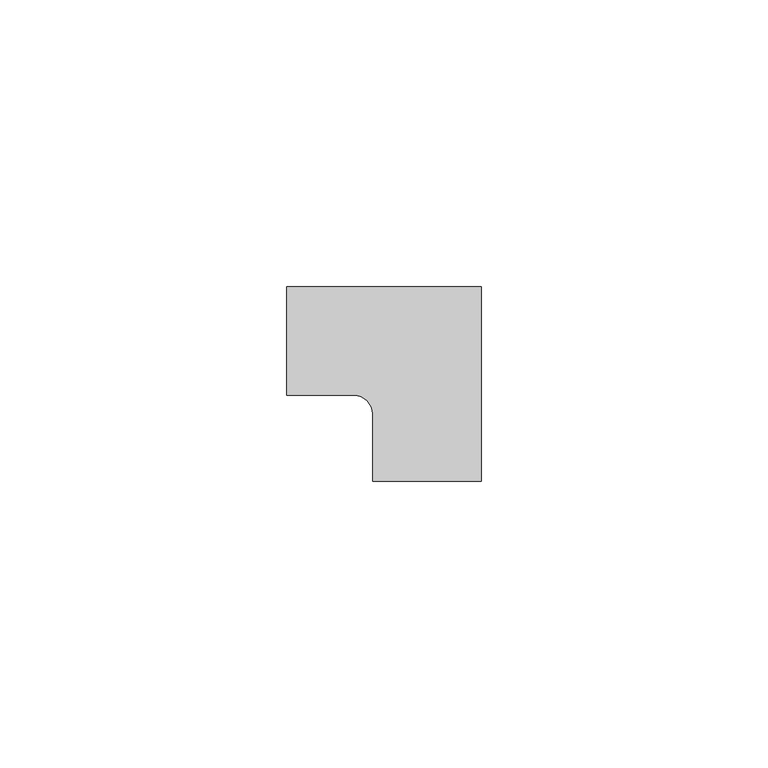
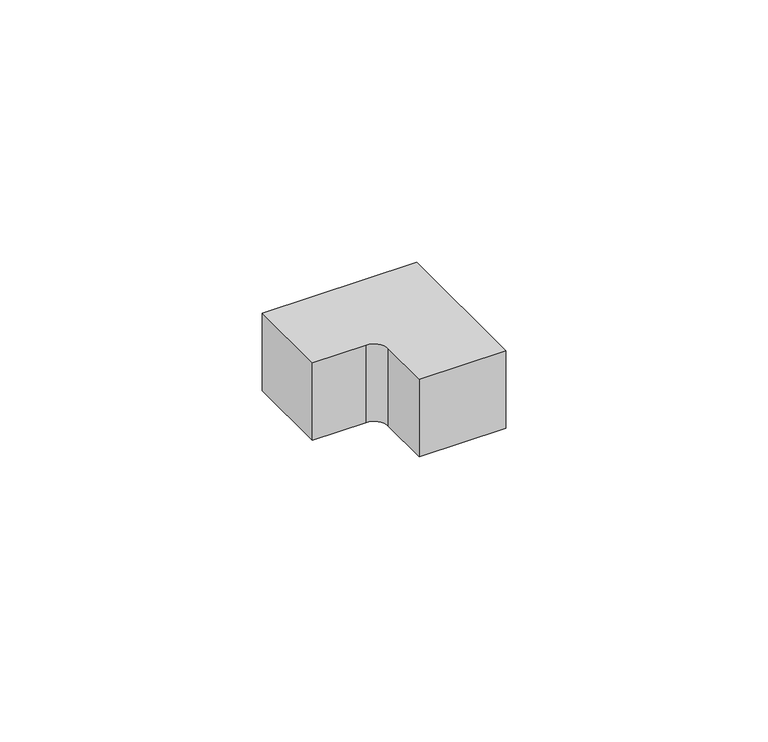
"""IFC4 building model written with IfcOpenShell, lengths in millimetres: proxy geometry, Внутренний_угол_КМВ : Внутренний угол КМВ 16х16."""

from ifc_helpers import new_model, si_unit, point, frame_2d, origin, origin_with_axes, place, context, project, spatial, polyline, circle_curve, trimmed, segment, composite_curve, outline, extrude, source, transform, mapped, element, save


def generic_models_bbe6288f(model_context):
    return source(origin(), model_context, "Body", "SweptSolid", [
        extrude(outline(composite_curve([segment(polyline([(-15.0, 0.0), (-15.0, 19.0), (19.0114701, 19.0), (19.0114701, -15.0), (0.0, -15.0), (0.0, -3.184906)]), True, "CONTINUOUS"), segment(trimmed(circle_curve(frame_2d((-3.184906, -3.184906)), 3.184906), [point((0.0, -3.184906))], [point((-3.184906, 0.0))], True, "CARTESIAN"), True, "CONTINUOUS"), segment(polyline([(-3.184906, 0.0), (-15.0, 0.0)]), True, "CONTINUOUS")], self_intersect=False)), origin_with_axes(), (0.0, 0.0, 1.0), 18.0303508),
    ])


if __name__ == "__main__":
    model = new_model("IFC4")
    model_context = context("Model", 3, world=origin())
    ifc_project = project(units=[si_unit("LENGTHUNIT", "METRE", prefix="MILLI")], contexts=[model_context])
    site = spatial("IfcSite", under=ifc_project)
    building = spatial("IfcBuilding", under=site)
    placement = place(None, origin())
    generic_models_shape = generic_models_bbe6288f(model_context)
    element("IfcBuildingElementProxy", 1, Name="Внутренний_угол_КМВ : Внутренний угол КМВ 16х16", ObjectType="Внутренний_угол_КМВ : Внутренний угол КМВ 16х16", at=placement, inside=building, context=model_context, shape_type="MappedRepresentation", body=[
        mapped(generic_models_shape, transform((0.0, 0.0, 0.0), x_axis=(1.0, 0.0, 0.0), y_axis=(0.0, 1.0, 0.0), z_axis=(0.0, 0.0, 1.0))),
    ])
    save(model, "model.ifc")
